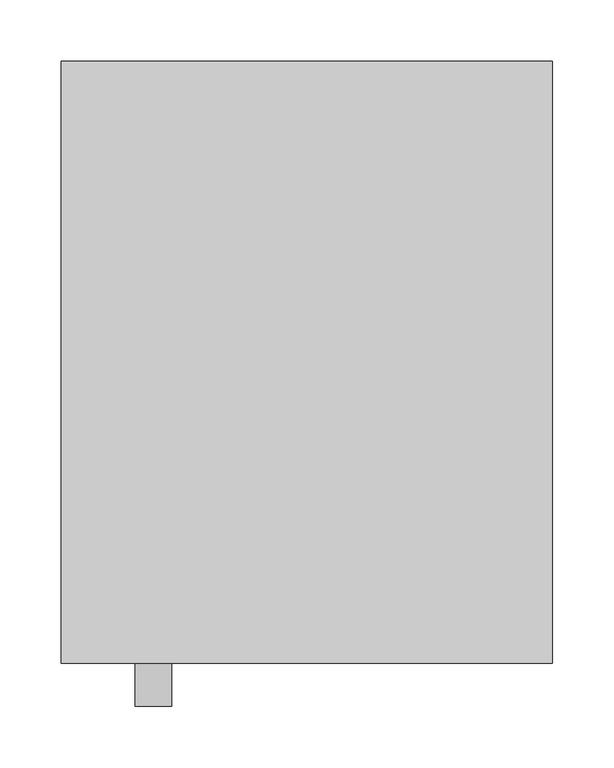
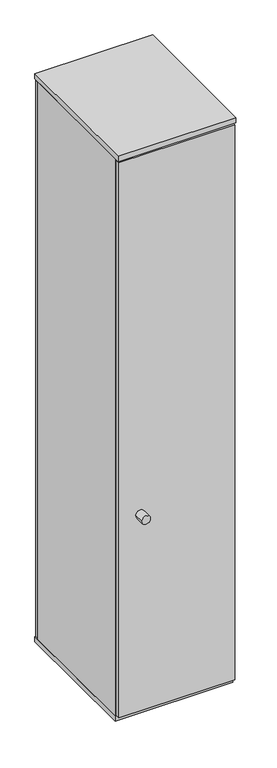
"""IFC4 building model written with IfcOpenShell, lengths in millimetres: furniture geometry, Grid Lockers - 1 Door Complimentary : GRID SINGLE DOOR CABINET 800mm(w) x 490mm(d) x 2052mm(h)."""

from ifc_helpers import new_model, si_unit, point, frame, frame_2d, origin, origin_with_axes, place, context, project, spatial, polyline, circle_curve, trimmed, segment, composite_curve, outline, extrude, source, transform, mapped, element, save


def furniture_dd02c948(model_context):
    return source(origin(), model_context, "Body", "SweptSolid", [
        extrude(outline(composite_curve([segment(trimmed(circle_curve(frame_2d((350.0, -50.0)), 15.0), [point((335.0, -50.0))], [point((365.0, -50.0))], False, "CARTESIAN"), True, "CONTINUOUS"), segment(trimmed(circle_curve(frame_2d((350.0, -50.0)), 15.0), [point((365.0, -50.0))], [point((335.0, -50.0))], False, "CARTESIAN"), True, "CONTINUOUS")], self_intersect=False)), origin_with_axes(), (0.0, 0.0, 1.0), 10.0),
        extrude(outline(composite_curve([segment(trimmed(circle_curve(frame_2d((50.0, -50.0)), 15.0), [point((35.0, -50.0))], [point((65.0, -50.0))], False, "CARTESIAN"), True, "CONTINUOUS"), segment(trimmed(circle_curve(frame_2d((50.0, -50.0)), 15.0), [point((65.0, -50.0))], [point((35.0, -50.0))], False, "CARTESIAN"), True, "CONTINUOUS")], self_intersect=False)), origin_with_axes(), (0.0, 0.0, 1.0), 10.0),
        extrude(outline(composite_curve([segment(trimmed(circle_curve(frame_2d((50.0, -440.0)), 15.0), [point((35.0, -440.0))], [point((65.0, -440.0))], False, "CARTESIAN"), True, "CONTINUOUS"), segment(trimmed(circle_curve(frame_2d((50.0, -440.0)), 15.0), [point((65.0, -440.0))], [point((35.0, -440.0))], False, "CARTESIAN"), True, "CONTINUOUS")], self_intersect=False)), origin_with_axes(), (0.0, 0.0, 1.0), 10.0),
        extrude(outline(composite_curve([segment(trimmed(circle_curve(frame_2d((350.0, -440.0)), 15.0), [point((335.0, -440.0))], [point((365.0, -440.0))], False, "CARTESIAN"), True, "CONTINUOUS"), segment(trimmed(circle_curve(frame_2d((350.0, -440.0)), 15.0), [point((365.0, -440.0))], [point((335.0, -440.0))], False, "CARTESIAN"), True, "CONTINUOUS")], self_intersect=False)), origin_with_axes(), (0.0, 0.0, 1.0), 10.0),
        extrude(outline(polyline([(400.0, -472.0), (0.0, -472.0), (0.0, 0.0), (400.0, 0.0), (400.0, -472.0)])), frame((0.0, 0.0, 10.0), z_axis=(0.0, 0.0, 1.0), x_axis=(1.0, 0.0, 0.0)), (0.0, 0.0, 1.0), 18.0),
        extrude(outline(polyline([(400.0, -490.0), (0.0, -490.0), (0.0, 0.0), (400.0, 0.0), (400.0, -490.0)])), frame((0.0, 0.0, 2034.0), z_axis=(0.0, 0.0, 1.0), x_axis=(1.0, 0.0, 0.0)), (0.0, 0.0, 1.0), 18.0),
        extrude(outline(composite_curve([segment(trimmed(circle_curve(frame_2d((740.0, 75.0)), 15.0), [point((740.0, 60.0))], [point((740.0, 90.0))], False, "CARTESIAN"), True, "CONTINUOUS"), segment(trimmed(circle_curve(frame_2d((740.0, 75.0)), 15.0), [point((740.0, 90.0))], [point((740.0, 60.0))], False, "CARTESIAN"), True, "CONTINUOUS")], self_intersect=False)), frame((0.0, -525.0, 0.0), z_axis=(0.0, 1.0, 0.0), x_axis=(0.0, 0.0, 1.0)), (0.0, 0.0, 1.0), 35.0),
        extrude(outline(polyline([(2034.0, 400.0), (2034.0, 0.0), (28.0, 0.0), (28.0, 3.0), (2009.0, 3.0), (2009.0, 397.0), (28.0, 397.0), (28.0, 400.0), (2034.0, 400.0)])), frame((0.0, -472.0, 0.0), z_axis=(0.0, 1.0, 0.0), x_axis=(0.0, 0.0, 1.0)), (0.0, 0.0, 1.0), 454.0),
        extrude(outline(polyline([(397.0, -490.0), (3.0, -490.0), (3.0, -472.0), (397.0, -472.0), (397.0, -490.0)])), frame((0.0, 0.0, 32.0), z_axis=(0.0, 0.0, 1.0), x_axis=(1.0, 0.0, 0.0)), (0.0, 0.0, 1.0), 1996.0),
        extrude(outline(polyline([(397.0, 0.0), (397.0, -18.0), (3.0, -18.0), (3.0, 0.0), (397.0, 0.0)])), frame((0.0, 0.0, 18.0), z_axis=(0.0, 0.0, 1.0), x_axis=(1.0, 0.0, 0.0)), (0.0, 0.0, 1.0), 2010.0),
    ])


if __name__ == "__main__":
    model = new_model("IFC4")
    model_context = context("Model", 3, world=origin())
    ifc_project = project(units=[si_unit("LENGTHUNIT", "METRE", prefix="MILLI")], contexts=[model_context])
    site = spatial("IfcSite", under=ifc_project)
    building = spatial("IfcBuilding", under=site)
    placement = place(None, origin())
    furniture_shape = furniture_dd02c948(model_context)
    element("IfcFurniture", 1, ObjectType="Grid Lockers - 1 Door Complimentary : GRID SINGLE DOOR CABINET 800mm(w) x 490mm(d) x 2052mm(h)", at=placement, inside=building, context=model_context, shape_type="MappedRepresentation", body=[
        mapped(furniture_shape, transform((0.0, 0.0, 0.0), x_axis=(1.0, 0.0, 0.0), y_axis=(0.0, 1.0, 0.0), z_axis=(0.0, 0.0, 1.0))),
    ])
    save(model, "model.ifc")
